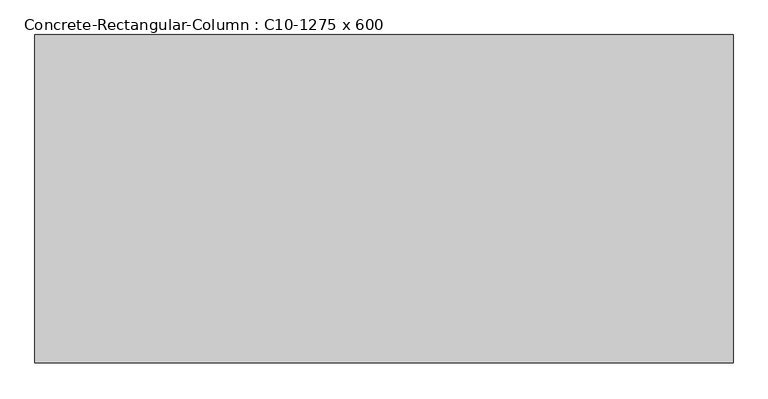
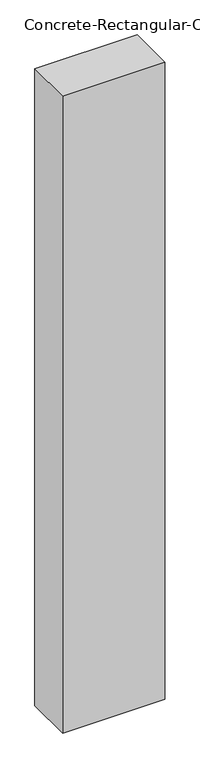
"""IFC4 building model written with IfcOpenShell, lengths in millimetres: column geometry, Concrete-Rectangular-Column : C10-1275 x 600."""

from ifc_helpers import new_model, si_unit, frame, origin, place, context, project, spatial, polyline, outline, extrude, source, transform, mapped, element, save


def concrete_rectangular_column_c10_1275_x_600_91d06403(model_context):
    return source(origin(), model_context, "Body", "SweptSolid", [
        extrude(outline(polyline([(637.5, 300.0), (637.5, -300.0), (-637.5, -300.0), (-637.5, 300.0), (637.5, 300.0)])), frame((0.0, 0.0, -7500.0), z_axis=(0.0, 0.0, 1.0), x_axis=(1.0, 0.0, 0.0)), (0.0, 0.0, 1.0), 8400.0),
    ])


if __name__ == "__main__":
    model = new_model("IFC4")
    model_context = context("Model", 3, world=origin())
    ifc_project = project(units=[si_unit("LENGTHUNIT", "METRE", prefix="MILLI")], contexts=[model_context])
    site = spatial("IfcSite", under=ifc_project)
    building = spatial("IfcBuilding", under=site)
    placement = place(None, origin())
    concrete_rectangular_column_c10_1275_x_600_shape = concrete_rectangular_column_c10_1275_x_600_91d06403(model_context)
    element("IfcColumn", 1, ObjectType="Concrete-Rectangular-Column : C10-1275 x 600", at=placement, inside=building, context=model_context, shape_type="MappedRepresentation", body=[
        mapped(concrete_rectangular_column_c10_1275_x_600_shape, transform((0.0, 0.0, 0.0), x_axis=(1.0, 0.0, 0.0), y_axis=(0.0, 1.0, 0.0), z_axis=(0.0, 0.0, 1.0))),
    ])
    save(model, "model.ifc")
